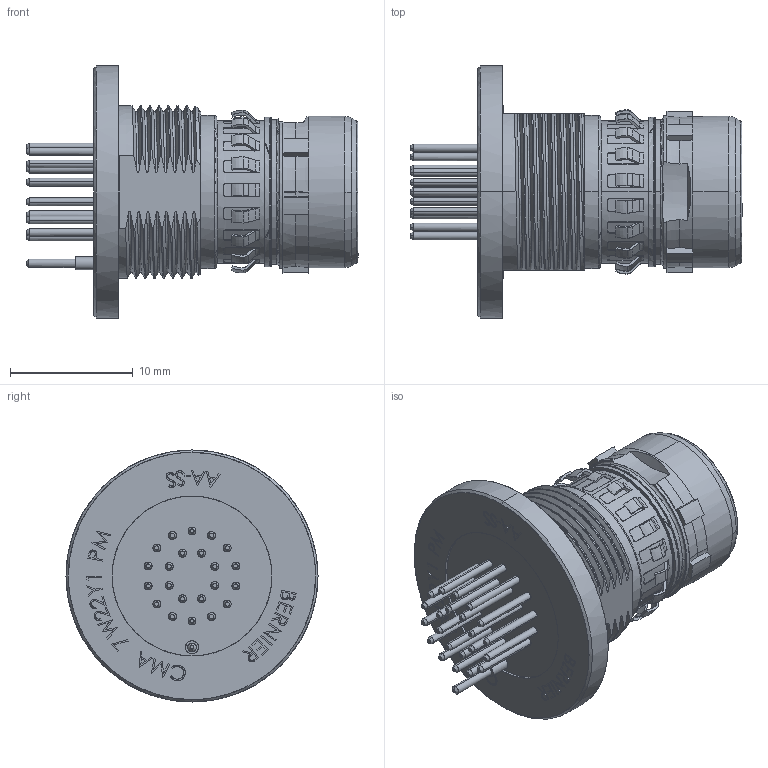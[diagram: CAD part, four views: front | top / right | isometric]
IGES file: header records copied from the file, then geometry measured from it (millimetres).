
Start section: SolidWorks IGES file using analytic representation for surfaces
Global section: file name: C:\Users\dmt\Desktop\CMA7W22Y1PM.IGS; native system: SolidWorks 2017; preprocessor: SolidWorks 2017; author: dmt; date: 181213.104151; units: millimetre
Bounding box: 27 x 20.5 x 20.5 mm (x, y, z)
Surface area: 2354.2 mm2 (no closed solid volume)
Topology: 0 solids, 0 shells, 1955 faces, 18109 edges, 18018 vertices
Faces by surface type: bspline 1097, revolution 858
